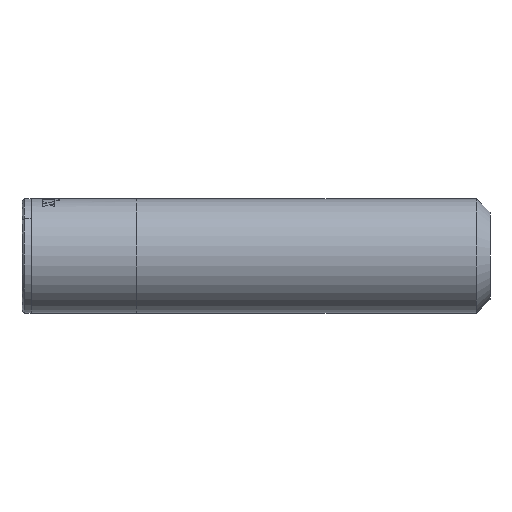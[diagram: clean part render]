
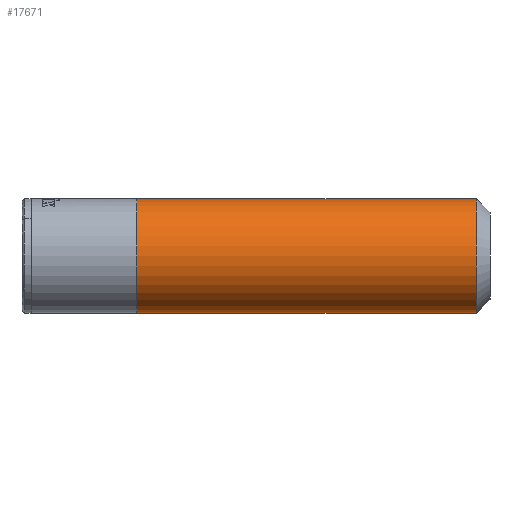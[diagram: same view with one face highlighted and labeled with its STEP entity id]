
A CAD part, left-side view. The second image highlights one B-rep face of the part: STEP entity #17671.
In plain terms, the highlighted cylindrical face has radius 12.5 mm (diameter 25 mm), a partial arc.
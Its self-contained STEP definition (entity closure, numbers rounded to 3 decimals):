
#67 = VECTOR ( 'NONE', #4129, 1000. ) ;
#517 = CARTESIAN_POINT ( 'NONE',  ( -6.336, -30.016, 93. ) ) ;
#1716 = VERTEX_POINT ( 'NONE', #19125 ) ;
#3239 = CYLINDRICAL_SURFACE ( 'NONE', #26146, 12.5 ) ;
#3254 = CIRCLE ( 'NONE', #4962, 12.5 ) ;
#3368 = CARTESIAN_POINT ( 'NONE',  ( -6.336, -30.016, 105.5 ) ) ;
#4129 = DIRECTION ( 'NONE',  ( 0., -1., 0. ) ) ;
#4774 = LINE ( 'NONE', #7775, #67 ) ;
#4962 = AXIS2_PLACEMENT_3D ( 'NONE', #15163, #25136, #17214 ) ;
#5256 = VERTEX_POINT ( 'NONE', #3368 ) ;
#5540 = AXIS2_PLACEMENT_3D ( 'NONE', #517, #17701, #9450 ) ;
#7052 = ORIENTED_EDGE ( 'NONE', *, *, #24127, .F. ) ;
#7646 = ORIENTED_EDGE ( 'NONE', *, *, #26067, .T. ) ;
#7775 = CARTESIAN_POINT ( 'NONE',  ( -6.336, 59.984, 80.5 ) ) ;
#7968 = DIRECTION ( 'NONE',  ( 0., 0., -1. ) ) ;
#9450 = DIRECTION ( 'NONE',  ( 0., 0., 1. ) ) ;
#9511 = LINE ( 'NONE', #12254, #24319 ) ;
#12057 = DIRECTION ( 'NONE',  ( 0., -1., 0. ) ) ;
#12124 = DIRECTION ( 'NONE',  ( 0., -1., 0. ) ) ;
#12254 = CARTESIAN_POINT ( 'NONE',  ( -6.336, 59.984, 105.5 ) ) ;
#13396 = VERTEX_POINT ( 'NONE', #22004 ) ;
#13614 = VERTEX_POINT ( 'NONE', #22850 ) ;
#15139 = ORIENTED_EDGE ( 'NONE', *, *, #22355, .F. ) ;
#15163 = CARTESIAN_POINT ( 'NONE',  ( -6.336, 43.984, 93. ) ) ;
#15809 = CARTESIAN_POINT ( 'NONE',  ( -6.336, 59.984, 93. ) ) ;
#16963 = EDGE_LOOP ( 'NONE', ( #15139, #7052, #24924, #7646 ) ) ;
#17214 = DIRECTION ( 'NONE',  ( 0., 0., 1. ) ) ;
#17671 = ADVANCED_FACE ( 'NONE', ( #24706 ), #3239, .T. ) ;
#17701 = DIRECTION ( 'NONE',  ( 0., 1., 0. ) ) ;
#18374 = CIRCLE ( 'NONE', #5540, 12.5 ) ;
#19125 = CARTESIAN_POINT ( 'NONE',  ( -6.336, 43.984, 80.5 ) ) ;
#22004 = CARTESIAN_POINT ( 'NONE',  ( -6.336, 43.984, 105.5 ) ) ;
#22355 = EDGE_CURVE ( 'NONE', #13396, #5256, #9511, .T. ) ;
#22850 = CARTESIAN_POINT ( 'NONE',  ( -6.336, -30.016, 80.5 ) ) ;
#24127 = EDGE_CURVE ( 'NONE', #1716, #13396, #3254, .T. ) ;
#24319 = VECTOR ( 'NONE', #12057, 1000. ) ;
#24366 = EDGE_CURVE ( 'NONE', #1716, #13614, #4774, .T. ) ;
#24706 = FACE_OUTER_BOUND ( 'NONE', #16963, .T. ) ;
#24924 = ORIENTED_EDGE ( 'NONE', *, *, #24366, .T. ) ;
#25136 = DIRECTION ( 'NONE',  ( 0., 1., 0. ) ) ;
#26067 = EDGE_CURVE ( 'NONE', #13614, #5256, #18374, .T. ) ;
#26146 = AXIS2_PLACEMENT_3D ( 'NONE', #15809, #12124, #7968 ) ;
